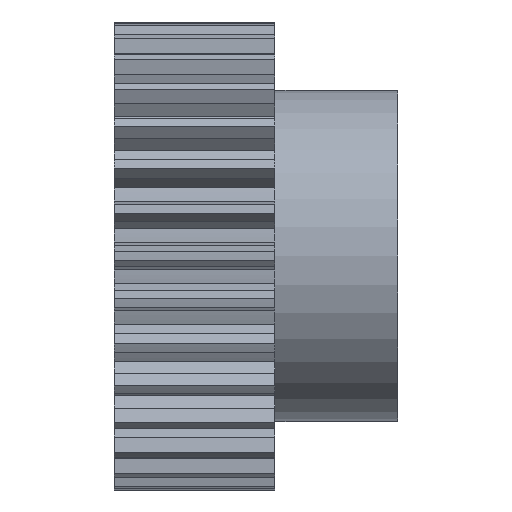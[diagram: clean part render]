
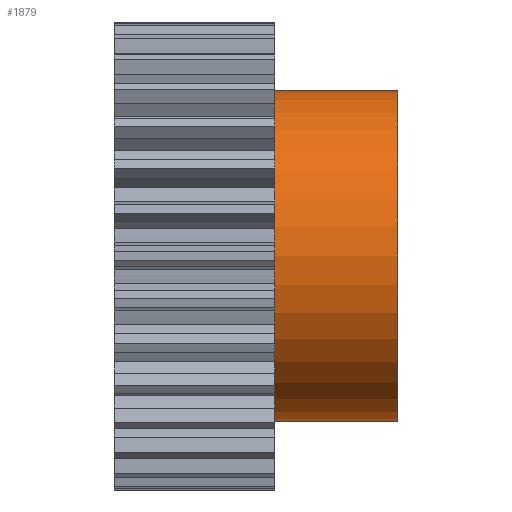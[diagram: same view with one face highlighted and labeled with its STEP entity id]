
A CAD part, front view. The second image highlights one B-rep face of the part: STEP entity #1879.
In plain terms, the highlighted cylindrical face has radius 17.5 mm (diameter 35 mm), a partial arc.
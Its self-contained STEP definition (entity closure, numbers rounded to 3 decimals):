
#428 = EDGE_LOOP ( 'NONE', ( #1875, #1878, #1880, #1881 ) ) ;
#741 = VERTEX_POINT ( 'NONE', #3307 ) ;
#750 = EDGE_CURVE ( 'NONE', #752, #741, #3291, .T. ) ;
#752 = VERTEX_POINT ( 'NONE', #3281 ) ;
#753 = VERTEX_POINT ( 'NONE', #3301 ) ;
#755 = EDGE_CURVE ( 'NONE', #753, #756, #3344, .T. ) ;
#756 = VERTEX_POINT ( 'NONE', #3280 ) ;
#1657 = EDGE_CURVE ( 'NONE', #753, #752, #4653, .T. ) ;
#1661 = EDGE_CURVE ( 'NONE', #741, #756, #4711, .T. ) ;
#1875 = ORIENTED_EDGE ( 'NONE', *, *, #755, .F. ) ;
#1878 = ORIENTED_EDGE ( 'NONE', *, *, #1657, .T. ) ;
#1879 = ADVANCED_FACE ( 'NONE', ( #4793 ), #4788, .T. ) ;
#1880 = ORIENTED_EDGE ( 'NONE', *, *, #750, .T. ) ;
#1881 = ORIENTED_EDGE ( 'NONE', *, *, #1661, .T. ) ;
#3280 = CARTESIAN_POINT ( 'NONE',  ( 8.5, 0., -17.5 ) ) ;
#3281 = CARTESIAN_POINT ( 'NONE',  ( 21.5, 0., 17.5 ) ) ;
#3282 = DIRECTION ( 'NONE',  ( -1., 0., 0. ) ) ;
#3283 = VECTOR ( 'NONE', #3282, 1000. ) ;
#3291 = LINE ( 'NONE', #3300, #3283 ) ;
#3300 = CARTESIAN_POINT ( 'NONE',  ( 8.5, 0., 17.5 ) ) ;
#3301 = CARTESIAN_POINT ( 'NONE',  ( 21.5, 0., -17.5 ) ) ;
#3307 = CARTESIAN_POINT ( 'NONE',  ( 8.5, 0., 17.5 ) ) ;
#3334 = DIRECTION ( 'NONE',  ( -1., 0., 0. ) ) ;
#3335 = VECTOR ( 'NONE', #3334, 1000. ) ;
#3343 = CARTESIAN_POINT ( 'NONE',  ( 8.5, 0., -17.5 ) ) ;
#3344 = LINE ( 'NONE', #3343, #3335 ) ;
#4653 = CIRCLE ( 'NONE', #4714, 17.5 ) ;
#4671 = CARTESIAN_POINT ( 'NONE',  ( 21.5, 0., 0. ) ) ;
#4701 = DIRECTION ( 'NONE',  ( 0., 0., 1. ) ) ;
#4702 = DIRECTION ( 'NONE',  ( 1., 0., 0. ) ) ;
#4703 = CARTESIAN_POINT ( 'NONE',  ( 8.5, 0., 0. ) ) ;
#4711 = CIRCLE ( 'NONE', #4716, 17.5 ) ;
#4712 = DIRECTION ( 'NONE',  ( 0., 0., 1. ) ) ;
#4713 = DIRECTION ( 'NONE',  ( -1., 0., 0. ) ) ;
#4714 = AXIS2_PLACEMENT_3D ( 'NONE', #4671, #4713, #4712 ) ;
#4716 = AXIS2_PLACEMENT_3D ( 'NONE', #4703, #4702, #4701 ) ;
#4760 = CARTESIAN_POINT ( 'NONE',  ( 8.5, 0., 0. ) ) ;
#4782 = DIRECTION ( 'NONE',  ( 0., 0., 1. ) ) ;
#4788 = CYLINDRICAL_SURFACE ( 'NONE', #4795, 17.5 ) ;
#4792 = DIRECTION ( 'NONE',  ( -1., 0., 0. ) ) ;
#4793 = FACE_OUTER_BOUND ( 'NONE', #428, .T. ) ;
#4795 = AXIS2_PLACEMENT_3D ( 'NONE', #4760, #4792, #4782 ) ;
